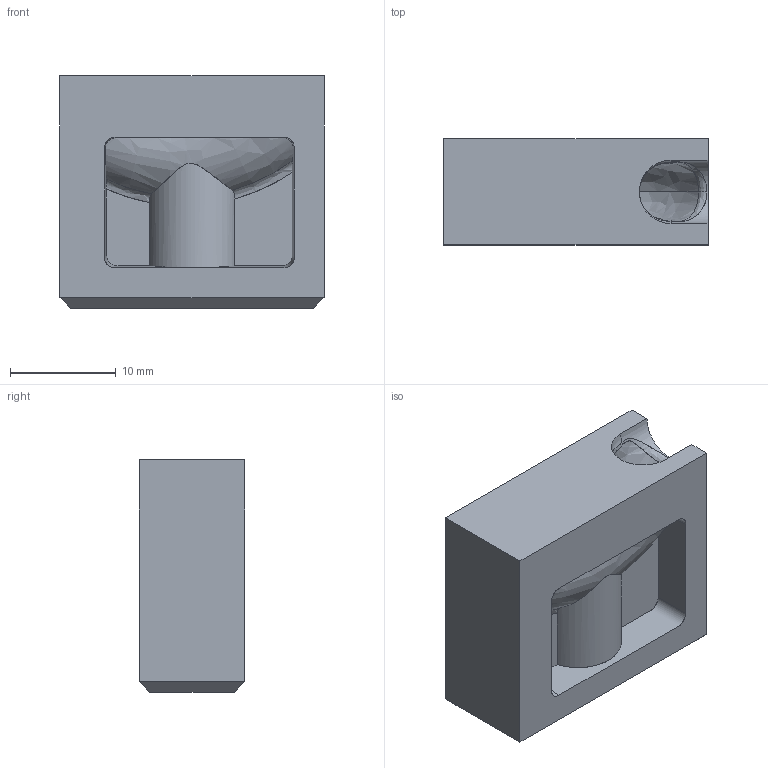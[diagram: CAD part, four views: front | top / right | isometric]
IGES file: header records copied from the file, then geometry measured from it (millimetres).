
Start section: START RECORD GO HERE.
Global section: file name: tgc2.igs; native system: DASSAULT SYSTEMES CATIA V5 R20 - www.3ds.com; preprocessor: CATIA Version 5 Release 20 ; author: Utente; organization: NB04-ASUS; date: 20210304.200837; units: millimetre
Bounding box: 25 x 10 x 22 mm (x, y, z)
Surface area: 2879.2 mm2 (no closed solid volume)
Topology: 0 solids, 0 shells, 81 faces, 462 edges, 449 vertices
Faces by surface type: revolution 36, plane 23, bspline 22
